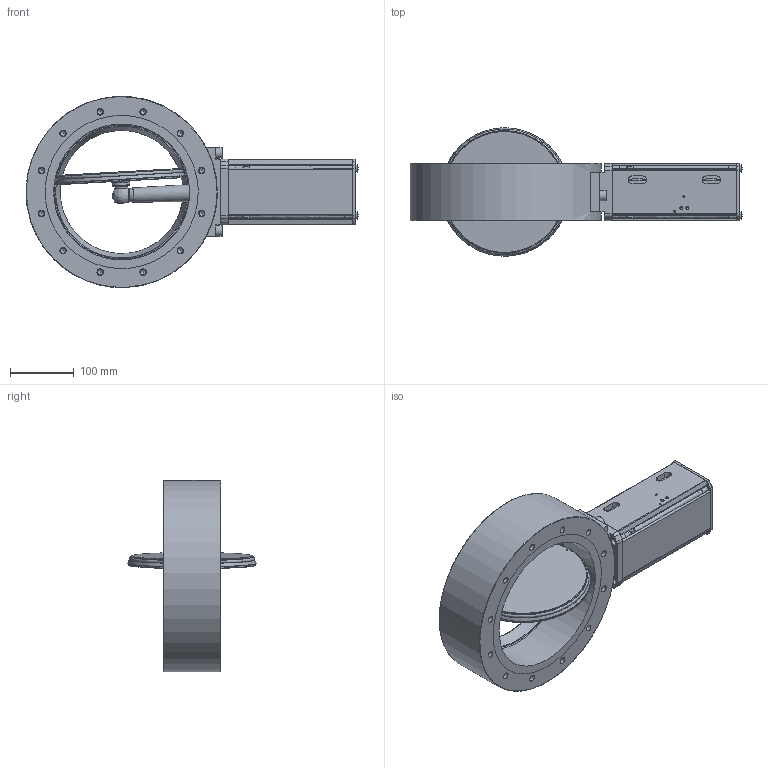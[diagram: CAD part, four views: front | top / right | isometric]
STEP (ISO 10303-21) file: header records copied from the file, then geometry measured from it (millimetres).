
FILE_DESCRIPTION((''),'2;1');
FILE_NAME('O:\MT\MT\Systeme\Cad\Datenexporte\www_vat_ch\234548.stp','2004-06-18T13:12:21',('User'),('SDRC'),'I-DEAS Master Series 9','UNIX','Yes');
FILE_SCHEMA(('CONFIG_CONTROL_DESIGN'));
Length unit declared in the file: millimetre
Assembly tree (28 placements, depth 0):
Bounding box: 520.44 x 201.05 x 299.57 mm (x, y, z)
Volume: 4644287.2 mm3; surface area: 620491.5 mm2
Topology: 35 solids, 35 shells, 870 faces, 1971 edges, 1269 vertices
Faces by surface type: bspline 870
Entity records: 24062 total; most frequent: CARTESIAN_POINT 12368, ORIENTED_EDGE 2918, EDGE_CURVE 1459, VERTEX_POINT 964, EDGE_LOOP 853, FACE_OUTER_BOUND 658, ADVANCED_FACE 658, QUASI_UNIFORM_CURVE 603
